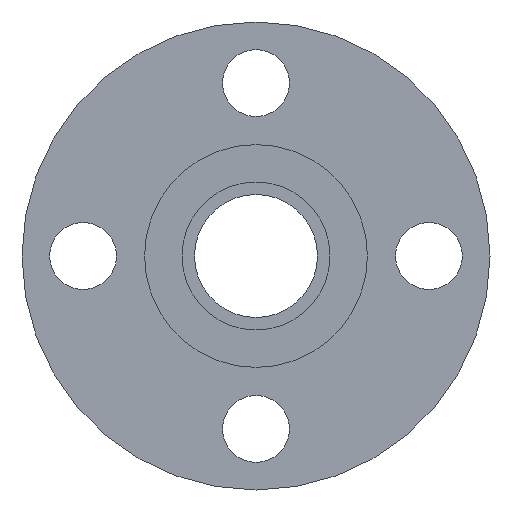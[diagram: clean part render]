
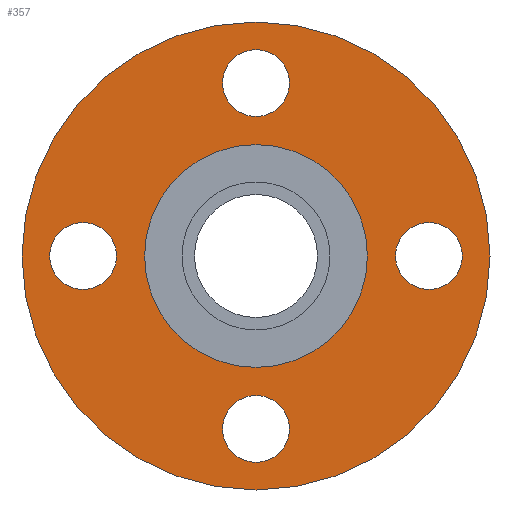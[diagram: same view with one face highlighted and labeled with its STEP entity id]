
A CAD part, left-side view. The second image highlights one B-rep face of the part: STEP entity #357.
In plain terms, the highlighted planar face has unit normal (-1, 0, 0).
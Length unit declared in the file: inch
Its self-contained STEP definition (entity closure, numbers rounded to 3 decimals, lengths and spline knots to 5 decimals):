
#14=FACE_BOUND('',#60,.T.);
#15=FACE_BOUND('',#61,.T.);
#16=FACE_BOUND('',#62,.T.);
#17=FACE_BOUND('',#63,.T.);
#18=FACE_BOUND('',#64,.T.);
#29=PLANE('',#407);
#41=FACE_OUTER_BOUND('',#59,.T.);
#59=EDGE_LOOP('',(#250,#251));
#60=EDGE_LOOP('',(#252));
#61=EDGE_LOOP('',(#253));
#62=EDGE_LOOP('',(#254));
#63=EDGE_LOOP('',(#255));
#64=EDGE_LOOP('',(#256,#257));
#110=CIRCLE('',#392,0.375);
#112=CIRCLE('',#395,0.375);
#114=CIRCLE('',#398,0.375);
#116=CIRCLE('',#401,0.375);
#117=CIRCLE('',#403,2.625);
#118=CIRCLE('',#404,2.625);
#121=CIRCLE('',#408,1.25);
#122=CIRCLE('',#409,1.25);
#146=VERTEX_POINT('',#569);
#148=VERTEX_POINT('',#575);
#150=VERTEX_POINT('',#581);
#152=VERTEX_POINT('',#587);
#153=VERTEX_POINT('',#591);
#154=VERTEX_POINT('',#592);
#157=VERTEX_POINT('',#601);
#158=VERTEX_POINT('',#602);
#183=EDGE_CURVE('',#146,#146,#110,.T.);
#186=EDGE_CURVE('',#148,#148,#112,.T.);
#189=EDGE_CURVE('',#150,#150,#114,.T.);
#192=EDGE_CURVE('',#152,#152,#116,.T.);
#193=EDGE_CURVE('',#153,#154,#117,.T.);
#194=EDGE_CURVE('',#154,#153,#118,.T.);
#198=EDGE_CURVE('',#157,#158,#121,.T.);
#199=EDGE_CURVE('',#158,#157,#122,.T.);
#250=ORIENTED_EDGE('',*,*,#193,.T.);
#251=ORIENTED_EDGE('',*,*,#194,.T.);
#252=ORIENTED_EDGE('',*,*,#183,.T.);
#253=ORIENTED_EDGE('',*,*,#186,.T.);
#254=ORIENTED_EDGE('',*,*,#189,.T.);
#255=ORIENTED_EDGE('',*,*,#192,.T.);
#256=ORIENTED_EDGE('',*,*,#198,.F.);
#257=ORIENTED_EDGE('',*,*,#199,.F.);
#357=ADVANCED_FACE('',(#41,#14,#15,#16,#17,#18),#29,.T.);
#392=AXIS2_PLACEMENT_3D('',#571,#451,#452);
#395=AXIS2_PLACEMENT_3D('',#577,#458,#459);
#398=AXIS2_PLACEMENT_3D('',#583,#465,#466);
#401=AXIS2_PLACEMENT_3D('',#589,#472,#473);
#403=AXIS2_PLACEMENT_3D('',#593,#476,#477);
#404=AXIS2_PLACEMENT_3D('',#594,#478,#479);
#407=AXIS2_PLACEMENT_3D('',#600,#485,#486);
#408=AXIS2_PLACEMENT_3D('',#603,#487,#488);
#409=AXIS2_PLACEMENT_3D('',#604,#489,#490);
#451=DIRECTION('center_axis',(1.,0.,0.));
#452=DIRECTION('ref_axis',(0.,-1.,0.));
#458=DIRECTION('center_axis',(1.,0.,0.));
#459=DIRECTION('ref_axis',(0.,0.,-1.));
#465=DIRECTION('center_axis',(1.,0.,0.));
#466=DIRECTION('ref_axis',(0.,1.,0.));
#472=DIRECTION('center_axis',(1.,0.,0.));
#473=DIRECTION('ref_axis',(0.,0.,1.));
#476=DIRECTION('center_axis',(-1.,0.,0.));
#477=DIRECTION('ref_axis',(0.,0.,1.));
#478=DIRECTION('center_axis',(-1.,0.,0.));
#479=DIRECTION('ref_axis',(0.,0.,1.));
#485=DIRECTION('center_axis',(-1.,0.,0.));
#486=DIRECTION('ref_axis',(0.,0.,1.));
#487=DIRECTION('center_axis',(-1.,0.,0.));
#488=DIRECTION('ref_axis',(0.,0.,1.));
#489=DIRECTION('center_axis',(-1.,0.,0.));
#490=DIRECTION('ref_axis',(0.,0.,1.));
#569=CARTESIAN_POINT('',(-0.75,2.315,0.));
#571=CARTESIAN_POINT('Origin',(-0.75,1.94,0.));
#575=CARTESIAN_POINT('',(-0.75,0.,2.315));
#577=CARTESIAN_POINT('Origin',(-0.75,0.,
1.94));
#581=CARTESIAN_POINT('',(-0.75,-2.315,0.));
#583=CARTESIAN_POINT('Origin',(-0.75,-1.94,0.));
#587=CARTESIAN_POINT('',(-0.75,0.,-2.315));
#589=CARTESIAN_POINT('Origin',(-0.75,0.,
-1.94));
#591=CARTESIAN_POINT('',(-0.75,0.,2.625));
#592=CARTESIAN_POINT('',(-0.75,0.,-2.625));
#593=CARTESIAN_POINT('Origin',(-0.75,0.,0.));
#594=CARTESIAN_POINT('Origin',(-0.75,0.,0.));
#600=CARTESIAN_POINT('Origin',(-0.75,0.,1.9375));
#601=CARTESIAN_POINT('',(-0.75,0.,1.25));
#602=CARTESIAN_POINT('',(-0.75,0.,-1.25));
#603=CARTESIAN_POINT('Origin',(-0.75,0.,0.));
#604=CARTESIAN_POINT('Origin',(-0.75,0.,0.));
